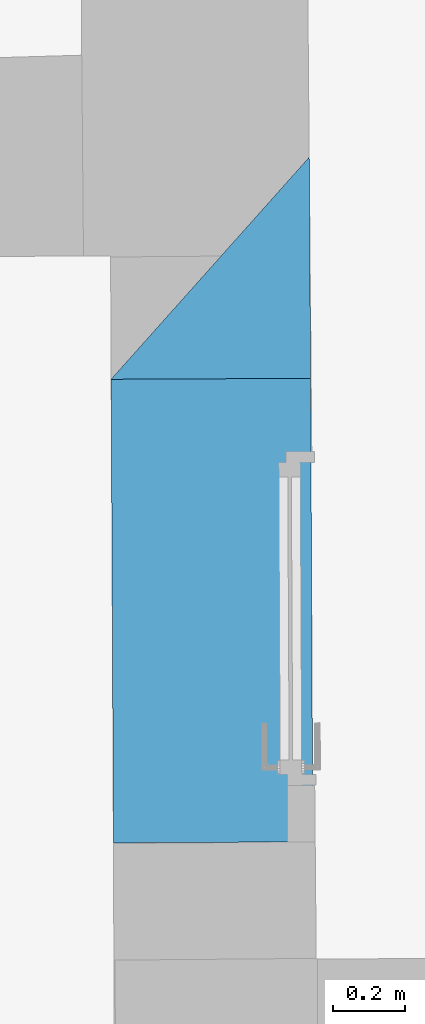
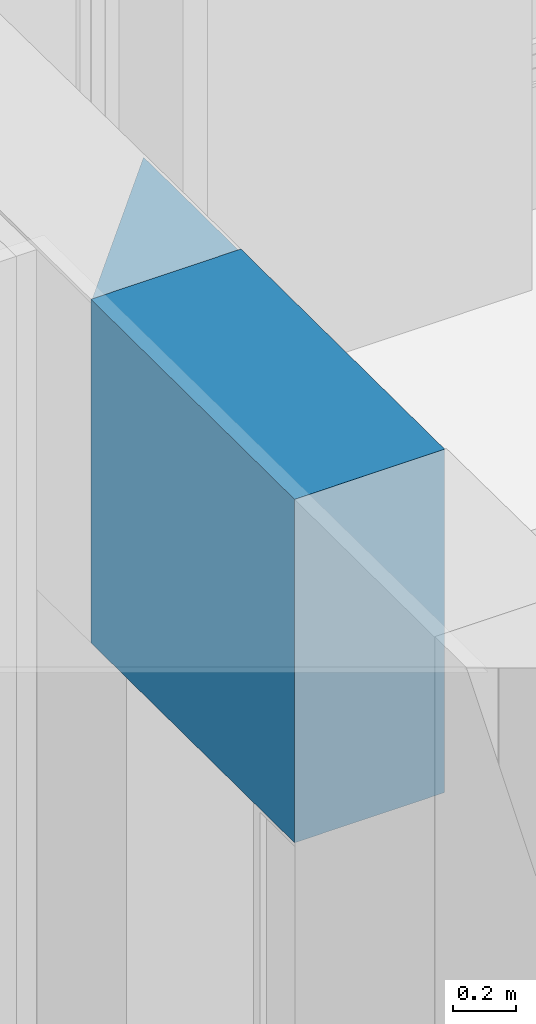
# One storey, part 50 of 97: 1 wall.
"""IFC2X3 building model written with IfcOpenShell, lengths in centimetres."""

from ifc_helpers import new_model, entity, si_unit, converted_unit, direction, frame, origin, origin_with_axes, place, context, subcontext, project, spatial, faceted_brep, material, layer, layer_set, layer_usage, type_object, element, save


model = new_model("IFC2X3")

# Units and contexts
model_context = context("Model", 3, precision=0.0001, world=origin(), true_north=direction((0.225632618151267, 0.974212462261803, 0.0)))
body_context = subcontext(model_context, "Body", "Model", "MODEL_VIEW")
ifc_project = project(units=[si_unit("LENGTHUNIT", "METRE", prefix="CENTI"), si_unit("AREAUNIT", "SQUARE_METRE", prefix="CENTI"), si_unit("VOLUMEUNIT", "CUBIC_METRE", prefix="CENTI"), converted_unit("PLANEANGLEUNIT", "DEGREE", entity("IfcRatioMeasure", 0.0174532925), si_unit("PLANEANGLEUNIT", "RADIAN"), dimensions=[0, 0, 0, 0, 0, 0, 0])], contexts=[model_context])

# Site, building, storey
site_placement = place(None, origin_with_axes())
site = spatial("IfcSite", under=ifc_project, at=site_placement, Name="Default Site", CompositionType="ELEMENT")
building_placement = place(site_placement, origin_with_axes())
building = spatial("IfcBuilding", under=site, at=building_placement, Name="Default Building", CompositionType="ELEMENT")
storey_placement = place(building_placement, origin_with_axes())
storey = spatial("IfcBuildingStorey", under=building, at=storey_placement, Name="Rez-de-chaussée", CompositionType="ELEMENT", Elevation=0.0)

# Wall
ifc_material = material(Name="<aucun>")
ifc_layer = layer(ifc_material, 55.6)
ifc_layer_set = layer_set([ifc_layer], Name="default")
ifc_layer_usage = layer_usage(ifc_layer_set, "AXIS2", "POSITIVE", -27.8)
wall_type = type_object("IfcWallType", Name="default 556", PredefinedType="NOTDEFINED", material=ifc_layer_set)
wall_placement = place(storey_placement, frame((-688.183054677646, -10.9230666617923, 265.0), z_axis=(0.0, 0.0, 1.0), x_axis=(-0.00486236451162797, 0.999988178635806, 0.0)))
element("IfcWall", 1, at=wall_placement, inside=storey, type_object=wall_type, material=ifc_layer_usage, Name="Enveloppe 27047", context=body_context, shape_type="Brep", body=[
    faceted_brep([(129.262609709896, 27.7999943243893, 9.53674317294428e-06), (-2.29976934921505e-09, 27.7999943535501, 9.53674317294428e-06), (-2.29976934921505e-09, 27.7999943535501, 2.80819892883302), (-2.29976934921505e-09, 27.7999943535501, 126.408205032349), (-2.29976934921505e-09, 27.7999943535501, 132.108197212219), (129.014520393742, 27.7999943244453, 132.108197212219), (129.22207810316, 27.7999943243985, 132.108197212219), (129.262609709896, 27.7999943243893, 132.108197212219), (129.262609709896, 27.7999943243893, 2.80819892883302), (129.22207810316, 27.8000006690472, 132.108197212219), (-2.29976791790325e-09, 27.8000006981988, 132.108197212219), (-2.29976791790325e-09, 27.8000006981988, 134.11003112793), (129.22207810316, 27.8000006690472, 134.11003112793), (129.22207810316, 27.8000006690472, 132.708201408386), (129.22207810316, 27.7999943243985, 132.708201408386), (129.262609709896, 27.7999943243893, 132.708201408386), (-2.34995552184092e-07, -27.8000157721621, 9.53674317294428e-06), (106.998916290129, -27.8000157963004, 9.53674317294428e-06), (106.998916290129, -27.8000157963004, 132.108197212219), (-2.34995552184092e-07, -27.8000157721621, 132.108197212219), (-2.34995552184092e-07, -27.8000157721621, 126.408205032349), (-2.34995552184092e-07, -27.8000157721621, 2.80819892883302), (163.525202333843, -27.8000089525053, 9.53674317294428e-06), (169.952459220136, -27.8000089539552, 9.53674317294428e-06), (169.952459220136, -27.8000089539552, 132.108197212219), (163.525202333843, -27.8000089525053, 132.108197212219), (169.952459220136, -27.7999801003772, 9.53674317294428e-06), (190.884366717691, -27.7192420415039, 9.53674317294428e-06), (190.884366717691, -27.7192420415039, 2.80819892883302), (190.884366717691, -27.7192420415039, 132.108197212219), (169.952459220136, -27.7999801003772, 132.108197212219), (190.88436683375, -27.7192721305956, 9.53674317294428e-06), (163.429474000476, -2.98341118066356, 9.53674317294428e-06), (163.429474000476, -2.98341118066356, 2.80819892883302), (190.88436683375, -27.7192721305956, 2.80819892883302), (163.429474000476, -2.98341118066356, 132.108197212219), (190.88436683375, -27.7192721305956, 132.108197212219), (106.998916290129, -27.8000064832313, 9.53674317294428e-06), (119.390636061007, -27.8000064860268, 9.53674317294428e-06), (159.781783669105, -27.8000064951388, 9.53674317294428e-06), (163.525202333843, -27.8000064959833, 9.53674317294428e-06), (163.525202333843, -27.8000064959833, 132.108197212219), (129.222085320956, -27.8000064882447, 132.108197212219), (106.998916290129, -27.8000064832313, 132.108197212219), (129.222085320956, -27.8000158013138, 132.108197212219), (129.222085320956, -27.8000158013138, 132.708201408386), (129.222085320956, -27.8000158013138, 134.11003112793), (-2.34995552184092e-07, -27.8000157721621, 134.11003112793), (129.222085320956, -27.800012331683, 132.108197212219), (163.525202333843, -27.8000123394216, 132.108197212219), (169.952459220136, -27.8000123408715, 132.108197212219), (169.952459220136, -27.8000123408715, 132.708201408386), (129.222085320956, -27.800012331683, 132.708201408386), (190.884366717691, -27.7192420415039, 132.708201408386), (169.952459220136, -27.7999801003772, 132.708201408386), (-2.29976870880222e-09, 27.7999971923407, 9.53674317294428e-06), (129.152971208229, 27.7999075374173, 9.53674317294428e-06), (129.014531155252, 27.7997700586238, 9.53674317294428e-06), (119.436569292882, 27.7625608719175, 9.53674317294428e-06), (106.784791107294, 27.7134516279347, 9.53674317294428e-06), (-9.68794004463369e-06, 27.7999972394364, 9.53674317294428e-06), (-9.7004830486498e-06, -27.8000157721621, 9.53674317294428e-06), (-9.7004830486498e-06, -27.8000157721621, 2.80819892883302), (-9.68794004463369e-06, 27.7999972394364, 2.80819892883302), (-9.7004830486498e-06, -27.8000157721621, 126.408205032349), (-9.68794004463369e-06, 27.7999972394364, 126.408205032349), (-9.7004830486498e-06, -27.8000157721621, 132.108197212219), (-9.68794004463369e-06, 27.7999972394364, 132.108197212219), (163.429479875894, -2.98340465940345, 9.53674317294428e-06), (163.429479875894, -2.98340465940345, 132.108197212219), (129.014519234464, 27.7997701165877, 9.53674317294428e-06), (129.222076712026, 27.7997145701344, 9.53674317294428e-06), (129.262608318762, 27.7997082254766, 9.53674317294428e-06), (129.222085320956, -27.800012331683, 9.53674317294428e-06), (129.262608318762, 27.7997082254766, 132.108197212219), (129.222076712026, 27.7997145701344, 132.108197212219), (129.014519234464, 27.7997701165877, 132.108197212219), (106.784791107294, 27.7134516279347, 132.108197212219), (129.2626068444, 27.7997065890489, 9.53674317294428e-06), (129.2626068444, 27.7997065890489, 2.80819892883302), (163.429479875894, -2.98340465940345, 2.80819892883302), (129.2626068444, 27.7997065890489, 132.108197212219), (129.222085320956, -27.800012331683, 134.11003112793), (-2.29976870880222e-09, 27.7999971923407, 134.11003112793), (129.222085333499, 27.8000006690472, 132.708201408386), (129.222085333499, 27.8000006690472, 134.11003112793), (-9.7004830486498e-06, -27.8000157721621, 134.11003112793), (-9.68794004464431e-06, 27.7999971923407, 134.11003112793), (129.262608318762, 27.7997082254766, 132.708201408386), (163.525202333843, -27.8000089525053, 132.708201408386), (190.88436683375, -27.7192721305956, 132.708201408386), (163.429479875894, -2.98340465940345, 132.708201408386), (129.262600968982, 27.7997000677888, 132.108197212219), (129.262600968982, 27.7997000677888, 132.708201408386)], [[[0, 1, 2, 3, 4, 5, 6, 7, 8]], [[9, 10, 11, 12, 13]], [[7, 6, 14, 15]], [[16, 17, 18, 19, 20, 21]], [[22, 23, 24, 25]], [[26, 27, 28, 29, 30]], [[31, 32, 33, 34]], [[34, 33, 35, 36]], [[37, 38, 39, 40, 41, 42, 43]], [[19, 18, 44, 45, 46, 47]], [[48, 49, 50, 51, 52]], [[30, 29, 53, 54]], [[55, 0, 56, 57, 58, 59, 37, 16]], [[60, 61, 62, 63]], [[63, 62, 64, 65]], [[65, 64, 66, 67]], [[68, 31, 26, 22]], [[25, 30, 36, 69]], [[59, 70, 71, 72, 68, 22, 73, 37]], [[43, 48, 25, 69, 74, 75, 76, 77]], [[68, 78, 79, 80]], [[80, 79, 81, 69]], [[47, 82, 12, 83]], [[52, 84, 85, 82]], [[67, 66, 86, 87]], [[69, 36, 30, 25, 48, 9, 7]], [[88, 13, 52, 89, 54, 90, 91]], [[36, 92, 93, 90]]]),
])

save(model, "model.ifc")
